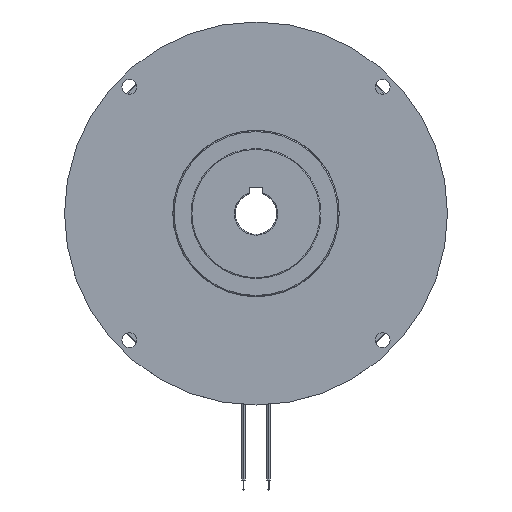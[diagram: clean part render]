
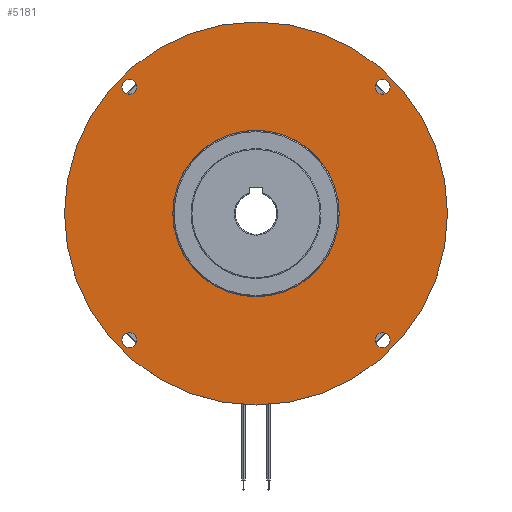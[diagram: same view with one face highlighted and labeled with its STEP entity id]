
A CAD part, top view. The second image highlights one B-rep face of the part: STEP entity #5181.
In plain terms, the highlighted planar face has unit normal (0, 0, 1).
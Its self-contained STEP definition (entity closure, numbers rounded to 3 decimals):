
#43 = EDGE_CURVE ( 'NONE', #5667, #5345, #5241, .T. ) ;
#70 = CARTESIAN_POINT ( 'NONE',  ( 0., 0., 0. ) ) ;
#189 = DIRECTION ( 'NONE',  ( -1., 0., 0. ) ) ;
#323 = EDGE_LOOP ( 'NONE', ( #1760, #2485 ) ) ;
#462 = VERTEX_POINT ( 'NONE', #7400 ) ;
#503 = ORIENTED_EDGE ( 'NONE', *, *, #7154, .T. ) ;
#509 = AXIS2_PLACEMENT_3D ( 'NONE', #2431, #5027, #1170 ) ;
#673 = EDGE_CURVE ( 'NONE', #6873, #6787, #5919, .T. ) ;
#681 = DIRECTION ( 'NONE',  ( -1., 0., 0. ) ) ;
#747 = EDGE_CURVE ( 'NONE', #6321, #462, #4078, .T. ) ;
#822 = DIRECTION ( 'NONE',  ( 0., 0., -1. ) ) ;
#926 = AXIS2_PLACEMENT_3D ( 'NONE', #5653, #4044, #7531 ) ;
#991 = CIRCLE ( 'NONE', #7807, 115. ) ;
#1095 = DIRECTION ( 'NONE',  ( -1., 0., 0. ) ) ;
#1147 = CIRCLE ( 'NONE', #1820, 4.5 ) ;
#1154 = DIRECTION ( 'NONE',  ( 0., 0., -1. ) ) ;
#1170 = DIRECTION ( 'NONE',  ( -1., 0., 0. ) ) ;
#1191 = AXIS2_PLACEMENT_3D ( 'NONE', #7559, #5688, #1095 ) ;
#1231 = CARTESIAN_POINT ( 'NONE',  ( 76.014, 76.014, 0. ) ) ;
#1570 = ORIENTED_EDGE ( 'NONE', *, *, #6586, .T. ) ;
#1680 = VERTEX_POINT ( 'NONE', #4542 ) ;
#1760 = ORIENTED_EDGE ( 'NONE', *, *, #673, .T. ) ;
#1782 = CARTESIAN_POINT ( 'NONE',  ( -76.014, -76.014, 0. ) ) ;
#1820 = AXIS2_PLACEMENT_3D ( 'NONE', #1231, #3224, #8235 ) ;
#1891 = CARTESIAN_POINT ( 'NONE',  ( -76.014, 76.014, 0. ) ) ;
#1935 = DIRECTION ( 'NONE',  ( 0., 0., -1. ) ) ;
#1978 = AXIS2_PLACEMENT_3D ( 'NONE', #7859, #2023, #5446 ) ;
#2023 = DIRECTION ( 'NONE',  ( 0., 0., -1. ) ) ;
#2030 = AXIS2_PLACEMENT_3D ( 'NONE', #6615, #822, #681 ) ;
#2089 = DIRECTION ( 'NONE',  ( -1., 0., 0. ) ) ;
#2194 = AXIS2_PLACEMENT_3D ( 'NONE', #1782, #1154, #4230 ) ;
#2431 = CARTESIAN_POINT ( 'NONE',  ( -76.014, -76.014, 0. ) ) ;
#2437 = DIRECTION ( 'NONE',  ( -1., 0., 0. ) ) ;
#2443 = FACE_BOUND ( 'NONE', #6872, .T. ) ;
#2468 = AXIS2_PLACEMENT_3D ( 'NONE', #70, #1935, #189 ) ;
#2485 = ORIENTED_EDGE ( 'NONE', *, *, #8355, .T. ) ;
#2865 = DIRECTION ( 'NONE',  ( -1., 0., 0. ) ) ;
#2988 = ORIENTED_EDGE ( 'NONE', *, *, #747, .T. ) ;
#3036 = EDGE_CURVE ( 'NONE', #462, #6321, #3220, .T. ) ;
#3090 = FACE_BOUND ( 'NONE', #8079, .T. ) ;
#3125 = DIRECTION ( 'NONE',  ( 0., 0., -1. ) ) ;
#3205 = CARTESIAN_POINT ( 'NONE',  ( 50., 0., 0. ) ) ;
#3220 = CIRCLE ( 'NONE', #1191, 4.5 ) ;
#3224 = DIRECTION ( 'NONE',  ( 0., 0., -1. ) ) ;
#3562 = CARTESIAN_POINT ( 'NONE',  ( 71.514, 76.014, 0. ) ) ;
#3726 = DIRECTION ( 'NONE',  ( 0., 0., -1. ) ) ;
#3769 = CARTESIAN_POINT ( 'NONE',  ( 0., 0., 0. ) ) ;
#3801 = EDGE_CURVE ( 'NONE', #5871, #1680, #8173, .T. ) ;
#3960 = AXIS2_PLACEMENT_3D ( 'NONE', #1891, #3726, #2437 ) ;
#4044 = DIRECTION ( 'NONE',  ( 0., 0., -1. ) ) ;
#4078 = CIRCLE ( 'NONE', #3960, 4.5 ) ;
#4091 = CIRCLE ( 'NONE', #2468, 50. ) ;
#4230 = DIRECTION ( 'NONE',  ( -1., 0., 0. ) ) ;
#4345 = FACE_BOUND ( 'NONE', #323, .T. ) ;
#4436 = CARTESIAN_POINT ( 'NONE',  ( 0., 0., 0. ) ) ;
#4478 = PLANE ( 'NONE',  #4818 ) ;
#4542 = CARTESIAN_POINT ( 'NONE',  ( -71.514, -76.014, 0. ) ) ;
#4581 = EDGE_LOOP ( 'NONE', ( #7778, #4659 ) ) ;
#4659 = ORIENTED_EDGE ( 'NONE', *, *, #5275, .F. ) ;
#4667 = VERTEX_POINT ( 'NONE', #6600 ) ;
#4676 = CARTESIAN_POINT ( 'NONE',  ( -50., 0., 0. ) ) ;
#4747 = ORIENTED_EDGE ( 'NONE', *, *, #43, .T. ) ;
#4818 = AXIS2_PLACEMENT_3D ( 'NONE', #7078, #6913, #5040 ) ;
#5027 = DIRECTION ( 'NONE',  ( 0., 0., -1. ) ) ;
#5040 = DIRECTION ( 'NONE',  ( -1., 0., 0. ) ) ;
#5085 = FACE_BOUND ( 'NONE', #5822, .T. ) ;
#5176 = CARTESIAN_POINT ( 'NONE',  ( 71.514, -76.014, 0. ) ) ;
#5181 = ADVANCED_FACE ( 'NONE', ( #4345, #5085, #8329, #3090, #5776, #2443 ), #4478, .F. ) ;
#5241 = CIRCLE ( 'NONE', #1978, 50. ) ;
#5275 = EDGE_CURVE ( 'NONE', #8058, #5514, #6481, .T. ) ;
#5318 = EDGE_CURVE ( 'NONE', #1680, #5871, #5810, .T. ) ;
#5345 = VERTEX_POINT ( 'NONE', #4676 ) ;
#5446 = DIRECTION ( 'NONE',  ( -1., 0., 0. ) ) ;
#5470 = DIRECTION ( 'NONE',  ( 0., 0., -1. ) ) ;
#5509 = AXIS2_PLACEMENT_3D ( 'NONE', #7347, #5470, #2865 ) ;
#5514 = VERTEX_POINT ( 'NONE', #6807 ) ;
#5653 = CARTESIAN_POINT ( 'NONE',  ( 76.014, -76.014, 0. ) ) ;
#5667 = VERTEX_POINT ( 'NONE', #3205 ) ;
#5688 = DIRECTION ( 'NONE',  ( 0., 0., -1. ) ) ;
#5769 = CARTESIAN_POINT ( 'NONE',  ( -71.514, 76.014, 0. ) ) ;
#5775 = DIRECTION ( 'NONE',  ( 0., 0., -1. ) ) ;
#5776 = FACE_OUTER_BOUND ( 'NONE', #4581, .T. ) ;
#5810 = CIRCLE ( 'NONE', #509, 4.5 ) ;
#5822 = EDGE_LOOP ( 'NONE', ( #1570, #503 ) ) ;
#5833 = ORIENTED_EDGE ( 'NONE', *, *, #3801, .T. ) ;
#5871 = VERTEX_POINT ( 'NONE', #7435 ) ;
#5919 = CIRCLE ( 'NONE', #5509, 4.5 ) ;
#6098 = CIRCLE ( 'NONE', #2030, 4.5 ) ;
#6302 = CARTESIAN_POINT ( 'NONE',  ( 115., 0., 0. ) ) ;
#6321 = VERTEX_POINT ( 'NONE', #5769 ) ;
#6481 = CIRCLE ( 'NONE', #7553, 115. ) ;
#6586 = EDGE_CURVE ( 'NONE', #7002, #4667, #7183, .T. ) ;
#6600 = CARTESIAN_POINT ( 'NONE',  ( 80.514, -76.014, 0. ) ) ;
#6615 = CARTESIAN_POINT ( 'NONE',  ( 76.014, -76.014, 0. ) ) ;
#6787 = VERTEX_POINT ( 'NONE', #6846 ) ;
#6807 = CARTESIAN_POINT ( 'NONE',  ( -115., 0., 0. ) ) ;
#6846 = CARTESIAN_POINT ( 'NONE',  ( 80.514, 76.014, 0. ) ) ;
#6864 = EDGE_LOOP ( 'NONE', ( #5833, #7999 ) ) ;
#6872 = EDGE_LOOP ( 'NONE', ( #8068, #4747 ) ) ;
#6873 = VERTEX_POINT ( 'NONE', #3562 ) ;
#6913 = DIRECTION ( 'NONE',  ( 0., 0., -1. ) ) ;
#7002 = VERTEX_POINT ( 'NONE', #5176 ) ;
#7039 = DIRECTION ( 'NONE',  ( -1., 0., 0. ) ) ;
#7078 = CARTESIAN_POINT ( 'NONE',  ( 0., 115., 0. ) ) ;
#7154 = EDGE_CURVE ( 'NONE', #4667, #7002, #6098, .T. ) ;
#7183 = CIRCLE ( 'NONE', #926, 4.5 ) ;
#7347 = CARTESIAN_POINT ( 'NONE',  ( 76.014, 76.014, 0. ) ) ;
#7400 = CARTESIAN_POINT ( 'NONE',  ( -80.514, 76.014, 0. ) ) ;
#7435 = CARTESIAN_POINT ( 'NONE',  ( -80.514, -76.014, 0. ) ) ;
#7461 = EDGE_CURVE ( 'NONE', #5345, #5667, #4091, .T. ) ;
#7531 = DIRECTION ( 'NONE',  ( -1., 0., 0. ) ) ;
#7553 = AXIS2_PLACEMENT_3D ( 'NONE', #3769, #3125, #2089 ) ;
#7559 = CARTESIAN_POINT ( 'NONE',  ( -76.014, 76.014, 0. ) ) ;
#7778 = ORIENTED_EDGE ( 'NONE', *, *, #8402, .F. ) ;
#7807 = AXIS2_PLACEMENT_3D ( 'NONE', #4436, #5775, #7039 ) ;
#7859 = CARTESIAN_POINT ( 'NONE',  ( 0., 0., 0. ) ) ;
#7999 = ORIENTED_EDGE ( 'NONE', *, *, #5318, .T. ) ;
#8058 = VERTEX_POINT ( 'NONE', #6302 ) ;
#8068 = ORIENTED_EDGE ( 'NONE', *, *, #7461, .T. ) ;
#8079 = EDGE_LOOP ( 'NONE', ( #8319, #2988 ) ) ;
#8173 = CIRCLE ( 'NONE', #2194, 4.5 ) ;
#8235 = DIRECTION ( 'NONE',  ( -1., 0., 0. ) ) ;
#8319 = ORIENTED_EDGE ( 'NONE', *, *, #3036, .T. ) ;
#8329 = FACE_BOUND ( 'NONE', #6864, .T. ) ;
#8355 = EDGE_CURVE ( 'NONE', #6787, #6873, #1147, .T. ) ;
#8402 = EDGE_CURVE ( 'NONE', #5514, #8058, #991, .T. ) ;
